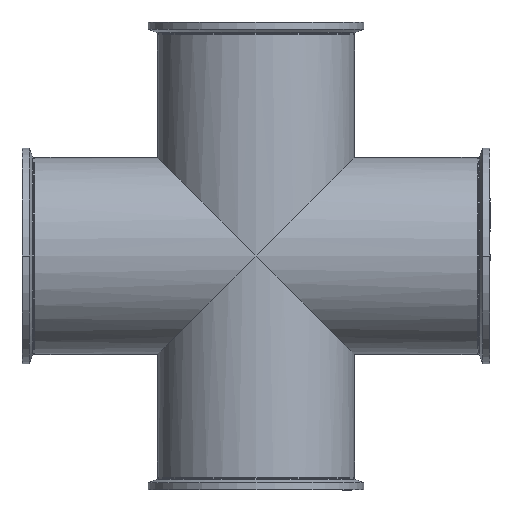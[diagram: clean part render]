
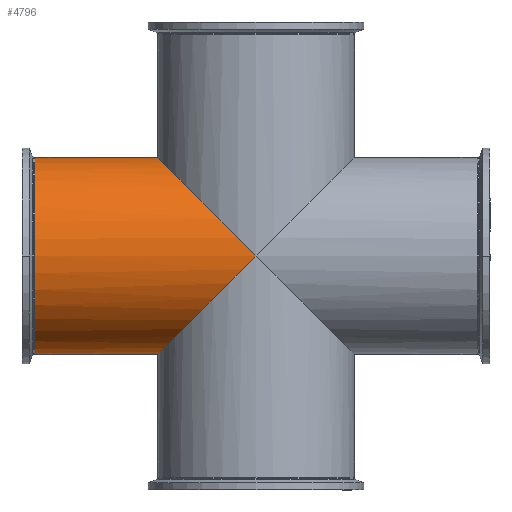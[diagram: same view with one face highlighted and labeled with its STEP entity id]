
A CAD part, front view. The second image highlights one B-rep face of the part: STEP entity #4796.
In plain terms, the highlighted cylindrical face has radius 76.2 mm (diameter 152.4 mm), a partial arc.
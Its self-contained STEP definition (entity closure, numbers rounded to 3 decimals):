
#353 = VERTEX_POINT ( 'NONE', #5029 ) ;
#379 = DIRECTION ( 'NONE',  ( 1., 0., 0. ) ) ;
#392 = EDGE_CURVE ( 'NONE', #3630, #2254, #7992, .T. ) ;
#497 = AXIS2_PLACEMENT_3D ( 'NONE', #3584, #3937, #3640 ) ;
#530 = ORIENTED_EDGE ( 'NONE', *, *, #3719, .F. ) ;
#547 = CYLINDRICAL_SURFACE ( 'NONE', #5766, 76.2 ) ;
#711 = VECTOR ( 'NONE', #379, 1000. ) ;
#715 = DIRECTION ( 'NONE',  ( 1., 0., 0. ) ) ;
#1011 = CARTESIAN_POINT ( 'NONE',  ( -170.975, 0., -76.2 ) ) ;
#1256 = EDGE_CURVE ( 'NONE', #353, #4650, #1936, .T. ) ;
#1341 = ORIENTED_EDGE ( 'NONE', *, *, #3103, .T. ) ;
#1738 = EDGE_LOOP ( 'NONE', ( #530, #6272, #1341, #2141, #7079 ) ) ;
#1936 =( BOUNDED_CURVE ( )  B_SPLINE_CURVE ( 3, ( #6672, #4318, #4060, #4030 ),
 .UNSPECIFIED., .F., .F. ) 
 B_SPLINE_CURVE_WITH_KNOTS ( ( 4, 4 ),
 ( 4.712, 6.283 ),
 .UNSPECIFIED. ) 
 CURVE ( )  GEOMETRIC_REPRESENTATION_ITEM ( )  RATIONAL_B_SPLINE_CURVE ( ( 1., 0.805, 0.805, 1. ) ) 
 REPRESENTATION_ITEM ( '' )  );
#1987 = CARTESIAN_POINT ( 'NONE',  ( -170.975, 0., 76.2 ) ) ;
#2004 = CARTESIAN_POINT ( 'NONE',  ( -44.637, -76.2, -44.637 ) ) ;
#2141 = ORIENTED_EDGE ( 'NONE', *, *, #4217, .T. ) ;
#2254 = VERTEX_POINT ( 'NONE', #1011 ) ;
#2327 = LINE ( 'NONE', #5818, #3820 ) ;
#2432 = DIRECTION ( 'NONE',  ( 0., 0., -1. ) ) ;
#2450 = FACE_OUTER_BOUND ( 'NONE', #1738, .T. ) ;
#2622 =( BOUNDED_CURVE ( )  B_SPLINE_CURVE ( 3, ( #4545, #5172, #2004, #6459 ),
 .UNSPECIFIED., .F., .F. ) 
 B_SPLINE_CURVE_WITH_KNOTS ( ( 4, 4 ),
 ( 3.142, 4.712 ),
 .UNSPECIFIED. ) 
 CURVE ( )  GEOMETRIC_REPRESENTATION_ITEM ( )  RATIONAL_B_SPLINE_CURVE ( ( 1., 0.805, 0.805, 1. ) ) 
 REPRESENTATION_ITEM ( '' )  );
#3103 = EDGE_CURVE ( 'NONE', #2254, #6340, #7644, .T. ) ;
#3584 = CARTESIAN_POINT ( 'NONE',  ( -170.975, 0., 0. ) ) ;
#3630 = VERTEX_POINT ( 'NONE', #1987 ) ;
#3640 = DIRECTION ( 'NONE',  ( 0., 0., -1. ) ) ;
#3713 = DIRECTION ( 'NONE',  ( 1., 0., 0. ) ) ;
#3719 = EDGE_CURVE ( 'NONE', #3630, #4650, #2327, .T. ) ;
#3820 = VECTOR ( 'NONE', #715, 1000. ) ;
#3937 = DIRECTION ( 'NONE',  ( 1., 0., 0. ) ) ;
#4030 = CARTESIAN_POINT ( 'NONE',  ( -76.2, 0., 76.2 ) ) ;
#4060 = CARTESIAN_POINT ( 'NONE',  ( -76.2, -44.637, 76.2 ) ) ;
#4217 = EDGE_CURVE ( 'NONE', #6340, #353, #2622, .T. ) ;
#4318 = CARTESIAN_POINT ( 'NONE',  ( -44.637, -76.2, 44.637 ) ) ;
#4393 = CARTESIAN_POINT ( 'NONE',  ( -76.2, 0., -76.2 ) ) ;
#4545 = CARTESIAN_POINT ( 'NONE',  ( -76.2, 0., -76.2 ) ) ;
#4650 = VERTEX_POINT ( 'NONE', #8034 ) ;
#4796 = ADVANCED_FACE ( 'NONE', ( #2450 ), #547, .T. ) ;
#5029 = CARTESIAN_POINT ( 'NONE',  ( 0., -76.2, 0. ) ) ;
#5172 = CARTESIAN_POINT ( 'NONE',  ( -76.2, -44.637, -76.2 ) ) ;
#5624 = CARTESIAN_POINT ( 'NONE',  ( -170.975, 0., 0. ) ) ;
#5766 = AXIS2_PLACEMENT_3D ( 'NONE', #5624, #3713, #2432 ) ;
#5818 = CARTESIAN_POINT ( 'NONE',  ( -170.975, 0., 76.2 ) ) ;
#6272 = ORIENTED_EDGE ( 'NONE', *, *, #392, .T. ) ;
#6340 = VERTEX_POINT ( 'NONE', #4393 ) ;
#6459 = CARTESIAN_POINT ( 'NONE',  ( 0., -76.2, 0. ) ) ;
#6672 = CARTESIAN_POINT ( 'NONE',  ( 0., -76.2, 0. ) ) ;
#7079 = ORIENTED_EDGE ( 'NONE', *, *, #1256, .T. ) ;
#7644 = LINE ( 'NONE', #7941, #711 ) ;
#7941 = CARTESIAN_POINT ( 'NONE',  ( -170.975, 0., -76.2 ) ) ;
#7992 = CIRCLE ( 'NONE', #497, 76.2 ) ;
#8034 = CARTESIAN_POINT ( 'NONE',  ( -76.2, 0., 76.2 ) ) ;
